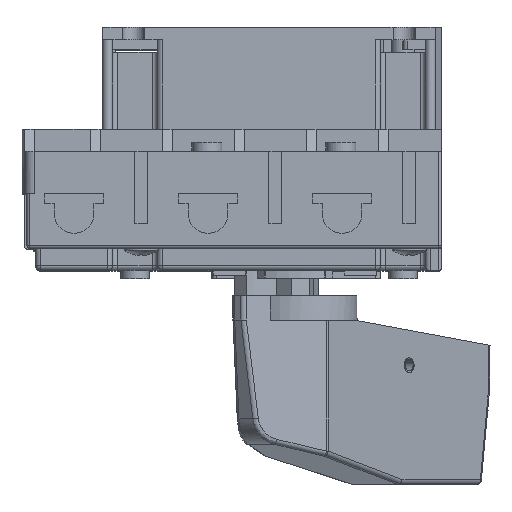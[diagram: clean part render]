
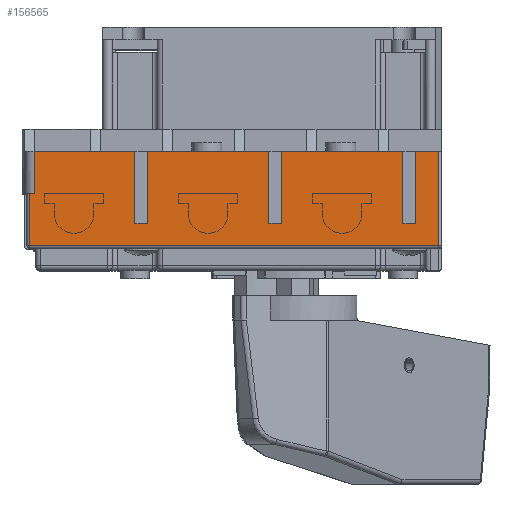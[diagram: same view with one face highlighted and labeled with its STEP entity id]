
A CAD part, top view. The second image highlights one B-rep face of the part: STEP entity #156565.
In plain terms, the highlighted planar face has unit normal (0, 0, 1).
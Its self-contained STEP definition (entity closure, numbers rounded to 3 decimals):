
#46750=DIRECTION('',(-1.,0.,0.));
#46751=VECTOR('',#46750,4.75);
#46752=CARTESIAN_POINT('',(29.003,24.,55.5));
#46753=LINE('',#46752,#46751);
#47188=DIRECTION('',(0.,-1.,0.));
#47189=VECTOR('',#47188,8.5);
#47190=CARTESIAN_POINT('',(-52.497,24.,55.5));
#47191=LINE('',#47190,#47189);
#47206=DIRECTION('',(-1.,0.,0.));
#47207=VECTOR('',#47206,1.);
#47208=CARTESIAN_POINT('',(-52.497,15.5,55.5));
#47209=LINE('',#47208,#47207);
#47225=DIRECTION('',(0.,1.,0.));
#47226=VECTOR('',#47225,19.);
#47227=CARTESIAN_POINT('',(29.003,5.,55.5));
#47228=LINE('',#47227,#47226);
#47229=DIRECTION('',(1.,0.,0.));
#47230=VECTOR('',#47229,82.5);
#47231=CARTESIAN_POINT('',(-53.497,5.,55.5));
#47232=LINE('',#47231,#47230);
#47233=DIRECTION('',(0.,1.,0.));
#47234=VECTOR('',#47233,10.5);
#47235=CARTESIAN_POINT('',(-53.497,5.,55.5));
#47236=LINE('',#47235,#47234);
#47237=DIRECTION('',(1.,0.,0.));
#47238=VECTOR('',#47237,20.25);
#47239=CARTESIAN_POINT('',(-52.497,24.,55.5));
#47240=LINE('',#47239,#47238);
#47241=DIRECTION('',(0.,-1.,0.));
#47242=VECTOR('',#47241,14.5);
#47243=CARTESIAN_POINT('',(-32.247,24.,55.5));
#47244=LINE('',#47243,#47242);
#47245=DIRECTION('',(1.,0.,0.));
#47246=VECTOR('',#47245,2.5);
#47247=CARTESIAN_POINT('',(-32.247,9.5,55.5));
#47248=LINE('',#47247,#47246);
#47249=DIRECTION('',(0.,1.,0.));
#47250=VECTOR('',#47249,14.5);
#47251=CARTESIAN_POINT('',(-29.747,9.5,55.5));
#47252=LINE('',#47251,#47250);
#47253=DIRECTION('',(1.,0.,0.));
#47254=VECTOR('',#47253,24.5);
#47255=CARTESIAN_POINT('',(-29.747,24.,55.5));
#47256=LINE('',#47255,#47254);
#47257=DIRECTION('',(0.,-1.,0.));
#47258=VECTOR('',#47257,14.5);
#47259=CARTESIAN_POINT('',(-5.247,24.,55.5));
#47260=LINE('',#47259,#47258);
#47261=DIRECTION('',(1.,0.,0.));
#47262=VECTOR('',#47261,2.5);
#47263=CARTESIAN_POINT('',(-5.247,9.5,55.5));
#47264=LINE('',#47263,#47262);
#47265=DIRECTION('',(0.,1.,0.));
#47266=VECTOR('',#47265,14.5);
#47267=CARTESIAN_POINT('',(-2.747,9.5,55.5));
#47268=LINE('',#47267,#47266);
#47269=DIRECTION('',(1.,0.,0.));
#47270=VECTOR('',#47269,24.5);
#47271=CARTESIAN_POINT('',(-2.747,24.,55.5));
#47272=LINE('',#47271,#47270);
#47273=DIRECTION('',(0.,-1.,0.));
#47274=VECTOR('',#47273,14.5);
#47275=CARTESIAN_POINT('',(21.753,24.,55.5));
#47276=LINE('',#47275,#47274);
#47277=DIRECTION('',(1.,0.,0.));
#47278=VECTOR('',#47277,2.5);
#47279=CARTESIAN_POINT('',(21.753,9.5,55.5));
#47280=LINE('',#47279,#47278);
#47281=DIRECTION('',(0.,1.,0.));
#47282=VECTOR('',#47281,14.5);
#47283=CARTESIAN_POINT('',(24.253,9.5,55.5));
#47284=LINE('',#47283,#47282);
#86509=CARTESIAN_POINT('',(-52.497,24.,55.5));
#86510=VERTEX_POINT('',#86509);
#86511=CARTESIAN_POINT('',(-52.497,15.5,55.5));
#86512=VERTEX_POINT('',#86511);
#86513=CARTESIAN_POINT('',(-29.747,9.5,55.5));
#86514=CARTESIAN_POINT('',(-29.747,24.,55.5));
#86515=VERTEX_POINT('',#86513);
#86516=VERTEX_POINT('',#86514);
#86517=CARTESIAN_POINT('',(-5.247,24.,55.5));
#86518=VERTEX_POINT('',#86517);
#86519=CARTESIAN_POINT('',(-5.247,9.5,55.5));
#86520=VERTEX_POINT('',#86519);
#86521=CARTESIAN_POINT('',(-2.747,9.5,55.5));
#86522=VERTEX_POINT('',#86521);
#86523=CARTESIAN_POINT('',(-2.747,24.,55.5));
#86524=VERTEX_POINT('',#86523);
#86525=CARTESIAN_POINT('',(21.753,24.,55.5));
#86526=VERTEX_POINT('',#86525);
#86527=CARTESIAN_POINT('',(21.753,9.5,55.5));
#86528=VERTEX_POINT('',#86527);
#86529=CARTESIAN_POINT('',(24.253,9.5,55.5));
#86530=VERTEX_POINT('',#86529);
#86531=CARTESIAN_POINT('',(24.253,24.,55.5));
#86532=VERTEX_POINT('',#86531);
#86533=CARTESIAN_POINT('',(-32.247,24.,55.5));
#86534=VERTEX_POINT('',#86533);
#86535=CARTESIAN_POINT('',(-32.247,9.5,55.5));
#86536=VERTEX_POINT('',#86535);
#88638=CARTESIAN_POINT('',(-53.497,15.5,55.5));
#88640=VERTEX_POINT('',#88638);
#88689=CARTESIAN_POINT('',(-53.497,5.,55.5));
#88690=VERTEX_POINT('',#88689);
#88691=CARTESIAN_POINT('',(29.003,5.,55.5));
#88692=VERTEX_POINT('',#88691);
#88697=CARTESIAN_POINT('',(29.003,24.,55.5));
#88699=VERTEX_POINT('',#88697);
#156530=CARTESIAN_POINT('',(-2.747,9.5,55.5));
#156531=DIRECTION('',(0.,0.,-1.));
#156532=DIRECTION('',(1.,0.,0.));
#156533=AXIS2_PLACEMENT_3D('',#156530,#156531,#156532);
#156534=PLANE('',#156533);
#156535=ORIENTED_EDGE('',*,*,#155829,.F.);
#156537=ORIENTED_EDGE('',*,*,#156536,.F.);
#156538=ORIENTED_EDGE('',*,*,#156520,.F.);
#156539=ORIENTED_EDGE('',*,*,#156497,.T.);
#156540=ORIENTED_EDGE('',*,*,#156482,.F.);
#156541=ORIENTED_EDGE('',*,*,#156467,.F.);
#156542=ORIENTED_EDGE('',*,*,#155853,.T.);
#156544=ORIENTED_EDGE('',*,*,#156543,.T.);
#156546=ORIENTED_EDGE('',*,*,#156545,.T.);
#156548=ORIENTED_EDGE('',*,*,#156547,.T.);
#156549=ORIENTED_EDGE('',*,*,#155845,.T.);
#156551=ORIENTED_EDGE('',*,*,#156550,.T.);
#156553=ORIENTED_EDGE('',*,*,#156552,.T.);
#156555=ORIENTED_EDGE('',*,*,#156554,.T.);
#156556=ORIENTED_EDGE('',*,*,#155837,.T.);
#156558=ORIENTED_EDGE('',*,*,#156557,.T.);
#156560=ORIENTED_EDGE('',*,*,#156559,.T.);
#156562=ORIENTED_EDGE('',*,*,#156561,.T.);
#156563=EDGE_LOOP('',(#156535,#156537,#156538,#156539,#156540,#156541,#156542,
#156544,#156546,#156548,#156549,#156551,#156553,#156555,#156556,#156558,#156560,
#156562));
#156564=FACE_OUTER_BOUND('',#156563,.F.);
#156565=ADVANCED_FACE('',(#156564),#156534,.F.);
#155829=EDGE_CURVE('',#88699,#86532,#46753,.T.);
#155837=EDGE_CURVE('',#86524,#86526,#47272,.T.);
#155845=EDGE_CURVE('',#86516,#86518,#47256,.T.);
#155853=EDGE_CURVE('',#86510,#86534,#47240,.T.);
#156467=EDGE_CURVE('',#86510,#86512,#47191,.T.);
#156482=EDGE_CURVE('',#86512,#88640,#47209,.T.);
#156497=EDGE_CURVE('',#88690,#88640,#47236,.T.);
#156520=EDGE_CURVE('',#88690,#88692,#47232,.T.);
#156536=EDGE_CURVE('',#88692,#88699,#47228,.T.);
#156543=EDGE_CURVE('',#86534,#86536,#47244,.T.);
#156545=EDGE_CURVE('',#86536,#86515,#47248,.T.);
#156547=EDGE_CURVE('',#86515,#86516,#47252,.T.);
#156550=EDGE_CURVE('',#86518,#86520,#47260,.T.);
#156552=EDGE_CURVE('',#86520,#86522,#47264,.T.);
#156554=EDGE_CURVE('',#86522,#86524,#47268,.T.);
#156557=EDGE_CURVE('',#86526,#86528,#47276,.T.);
#156559=EDGE_CURVE('',#86528,#86530,#47280,.T.);
#156561=EDGE_CURVE('',#86530,#86532,#47284,.T.);
